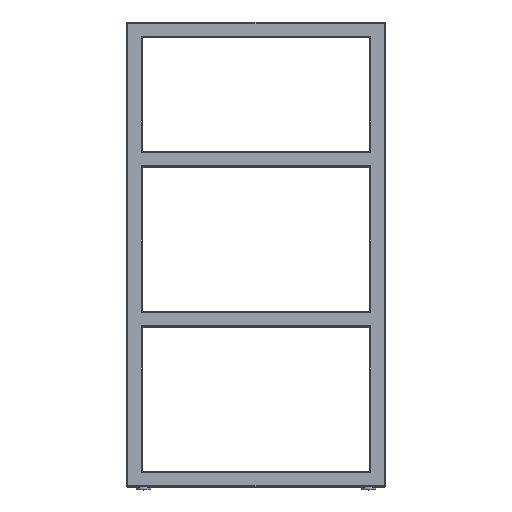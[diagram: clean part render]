
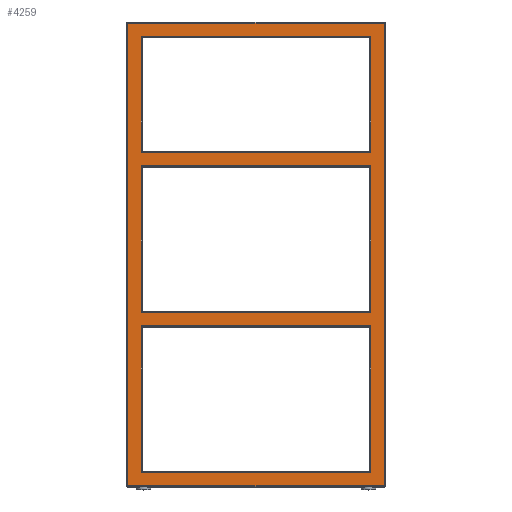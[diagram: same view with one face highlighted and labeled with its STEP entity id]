
A CAD part, top view. The second image highlights one B-rep face of the part: STEP entity #4259.
In plain terms, the highlighted planar face has unit normal (0, 0, 1).
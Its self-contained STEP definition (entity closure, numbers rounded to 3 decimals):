
#68=FACE_BOUND('',#663,.T.);
#69=FACE_BOUND('',#664,.T.);
#70=FACE_BOUND('',#665,.T.);
#191=PLANE('',#4657);
#400=FACE_OUTER_BOUND('',#662,.T.);
#662=EDGE_LOOP('',(#3233,#3234,#3235,#3236));
#663=EDGE_LOOP('',(#3237,#3238,#3239,#3240));
#664=EDGE_LOOP('',(#3241,#3242,#3243,#3244));
#665=EDGE_LOOP('',(#3245,#3246,#3247,#3248));
#1020=LINE('',#6657,#1492);
#1023=LINE('',#6674,#1495);
#1028=LINE('',#6695,#1500);
#1037=LINE('',#6722,#1509);
#1040=LINE('',#6729,#1512);
#1041=LINE('',#6731,#1513);
#1042=LINE('',#6733,#1514);
#1043=LINE('',#6734,#1515);
#1044=LINE('',#6737,#1516);
#1045=LINE('',#6739,#1517);
#1046=LINE('',#6741,#1518);
#1047=LINE('',#6742,#1519);
#1048=LINE('',#6745,#1520);
#1049=LINE('',#6747,#1521);
#1050=LINE('',#6749,#1522);
#1051=LINE('',#6750,#1523);
#1492=VECTOR('',#5335,10.);
#1495=VECTOR('',#5356,10.);
#1500=VECTOR('',#5383,10.);
#1509=VECTOR('',#5420,10.);
#1512=VECTOR('',#5427,10.);
#1513=VECTOR('',#5428,10.);
#1514=VECTOR('',#5429,10.);
#1515=VECTOR('',#5430,10.);
#1516=VECTOR('',#5431,10.);
#1517=VECTOR('',#5432,10.);
#1518=VECTOR('',#5433,10.);
#1519=VECTOR('',#5434,10.);
#1520=VECTOR('',#5435,10.);
#1521=VECTOR('',#5436,10.);
#1522=VECTOR('',#5437,10.);
#1523=VECTOR('',#5438,10.);
#2022=VERTEX_POINT('',#6646);
#2023=VERTEX_POINT('',#6650);
#2030=VERTEX_POINT('',#6669);
#2034=VERTEX_POINT('',#6689);
#2040=VERTEX_POINT('',#6727);
#2041=VERTEX_POINT('',#6728);
#2042=VERTEX_POINT('',#6730);
#2043=VERTEX_POINT('',#6732);
#2044=VERTEX_POINT('',#6735);
#2045=VERTEX_POINT('',#6736);
#2046=VERTEX_POINT('',#6738);
#2047=VERTEX_POINT('',#6740);
#2048=VERTEX_POINT('',#6743);
#2049=VERTEX_POINT('',#6744);
#2050=VERTEX_POINT('',#6746);
#2051=VERTEX_POINT('',#6748);
#2458=EDGE_CURVE('',#2023,#2022,#1020,.T.);
#2467=EDGE_CURVE('',#2022,#2030,#1023,.T.);
#2478=EDGE_CURVE('',#2034,#2023,#1028,.T.);
#2493=EDGE_CURVE('',#2030,#2034,#1037,.T.);
#2496=EDGE_CURVE('',#2040,#2041,#1040,.T.);
#2497=EDGE_CURVE('',#2042,#2040,#1041,.T.);
#2498=EDGE_CURVE('',#2043,#2042,#1042,.T.);
#2499=EDGE_CURVE('',#2041,#2043,#1043,.T.);
#2500=EDGE_CURVE('',#2044,#2045,#1044,.T.);
#2501=EDGE_CURVE('',#2046,#2044,#1045,.T.);
#2502=EDGE_CURVE('',#2047,#2046,#1046,.T.);
#2503=EDGE_CURVE('',#2045,#2047,#1047,.T.);
#2504=EDGE_CURVE('',#2048,#2049,#1048,.T.);
#2505=EDGE_CURVE('',#2050,#2048,#1049,.T.);
#2506=EDGE_CURVE('',#2051,#2050,#1050,.T.);
#2507=EDGE_CURVE('',#2049,#2051,#1051,.T.);
#3233=ORIENTED_EDGE('',*,*,#2458,.F.);
#3234=ORIENTED_EDGE('',*,*,#2478,.F.);
#3235=ORIENTED_EDGE('',*,*,#2493,.F.);
#3236=ORIENTED_EDGE('',*,*,#2467,.F.);
#3237=ORIENTED_EDGE('',*,*,#2496,.F.);
#3238=ORIENTED_EDGE('',*,*,#2497,.F.);
#3239=ORIENTED_EDGE('',*,*,#2498,.F.);
#3240=ORIENTED_EDGE('',*,*,#2499,.F.);
#3241=ORIENTED_EDGE('',*,*,#2500,.F.);
#3242=ORIENTED_EDGE('',*,*,#2501,.F.);
#3243=ORIENTED_EDGE('',*,*,#2502,.F.);
#3244=ORIENTED_EDGE('',*,*,#2503,.F.);
#3245=ORIENTED_EDGE('',*,*,#2504,.F.);
#3246=ORIENTED_EDGE('',*,*,#2505,.F.);
#3247=ORIENTED_EDGE('',*,*,#2506,.F.);
#3248=ORIENTED_EDGE('',*,*,#2507,.F.);
#4259=ADVANCED_FACE('',(#400,#68,#69,#70),#191,.T.);
#4657=AXIS2_PLACEMENT_3D('',#6726,#5425,#5426);
#5335=DIRECTION('',(-1.,0.,0.));
#5356=DIRECTION('',(0.,1.,0.));
#5383=DIRECTION('',(0.,-1.,0.));
#5420=DIRECTION('',(1.,0.,0.));
#5425=DIRECTION('center_axis',(0.,0.,1.));
#5426=DIRECTION('ref_axis',(1.,0.,0.));
#5427=DIRECTION('',(0.,1.,0.));
#5428=DIRECTION('',(1.,0.,0.));
#5429=DIRECTION('',(0.,-1.,0.));
#5430=DIRECTION('',(-1.,0.,0.));
#5431=DIRECTION('',(1.,0.,0.));
#5432=DIRECTION('',(0.,-1.,0.));
#5433=DIRECTION('',(-1.,0.,0.));
#5434=DIRECTION('',(0.,1.,0.));
#5435=DIRECTION('',(0.,1.,0.));
#5436=DIRECTION('',(1.,0.,0.));
#5437=DIRECTION('',(0.,-1.,0.));
#5438=DIRECTION('',(-1.,0.,0.));
#6646=CARTESIAN_POINT('',(-248.,2.,250.));
#6650=CARTESIAN_POINT('',(248.,2.,250.));
#6657=CARTESIAN_POINT('',(-125.,2.,250.));
#6669=CARTESIAN_POINT('',(-248.,898.,250.));
#6674=CARTESIAN_POINT('',(-248.,0.,250.));
#6689=CARTESIAN_POINT('',(248.,898.,250.));
#6695=CARTESIAN_POINT('',(248.,0.,250.));
#6722=CARTESIAN_POINT('',(-247.5,898.,250.));
#6726=CARTESIAN_POINT('Origin',(-250.,0.,250.));
#6727=CARTESIAN_POINT('',(222.,648.,250.));
#6728=CARTESIAN_POINT('',(222.,872.,250.));
#6729=CARTESIAN_POINT('',(222.,15.,250.));
#6730=CARTESIAN_POINT('',(-222.,648.,250.));
#6731=CARTESIAN_POINT('',(-125.,648.,250.));
#6732=CARTESIAN_POINT('',(-222.,872.,250.));
#6733=CARTESIAN_POINT('',(-222.,15.,250.));
#6734=CARTESIAN_POINT('',(-125.,872.,250.));
#6735=CARTESIAN_POINT('',(-222.,28.,250.));
#6736=CARTESIAN_POINT('',(222.,28.,250.));
#6737=CARTESIAN_POINT('',(-125.,28.,250.));
#6738=CARTESIAN_POINT('',(-222.,312.,250.));
#6739=CARTESIAN_POINT('',(-222.,15.,250.));
#6740=CARTESIAN_POINT('',(222.,312.,250.));
#6741=CARTESIAN_POINT('',(-125.,312.,250.));
#6742=CARTESIAN_POINT('',(222.,15.,250.));
#6743=CARTESIAN_POINT('',(222.,338.,250.));
#6744=CARTESIAN_POINT('',(222.,622.,250.));
#6745=CARTESIAN_POINT('',(222.,15.,250.));
#6746=CARTESIAN_POINT('',(-222.,338.,250.));
#6747=CARTESIAN_POINT('',(-125.,338.,250.));
#6748=CARTESIAN_POINT('',(-222.,622.,250.));
#6749=CARTESIAN_POINT('',(-222.,15.,250.));
#6750=CARTESIAN_POINT('',(-125.,622.,250.));
